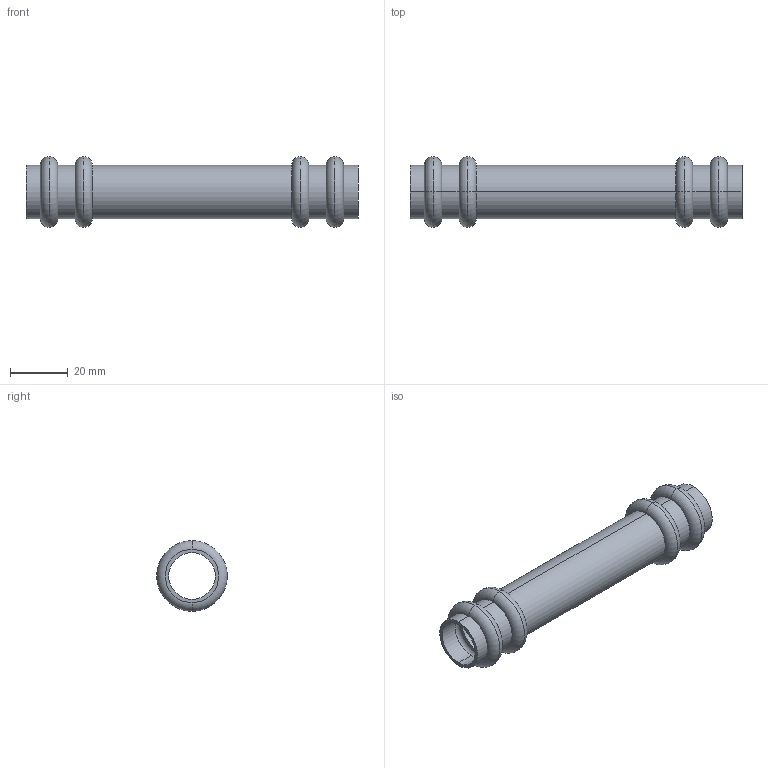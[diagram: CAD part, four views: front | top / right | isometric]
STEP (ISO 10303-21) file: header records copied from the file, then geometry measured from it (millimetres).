
FILE_DESCRIPTION(('starvars output'),'1');
FILE_NAME('cv20240422104912000011784.stp','10:49:12 2024/04/22',('Thomas Industrial Network Germany GmbH'),(' '),'Spatial InterOp 3D',' ',' ');
FILE_SCHEMA(('AUTOMOTIVE_DESIGN { 1 0 10303 214 3 1 1 }'));
Length unit declared in the file: millimetre
Products named in the file (1): 1
Bounding box: 115.06 x 24.5 x 24.5 mm (x, y, z)
Volume: 8957.7 mm3; surface area: 15104.5 mm2
Topology: 1 solids, 1 shells, 70 faces, 140 edges, 88 vertices
Faces by surface type: torus 32, cylinder 20, plane 18
Entity records: 2464 total; most frequent: DIRECTION 402, CARTESIAN_POINT 299, ORIENTED_EDGE 280, AXIS2_PLACEMENT_3D 191, EDGE_CURVE 140, CIRCLE 120, EDGE_LOOP 88, VERTEX_POINT 88
